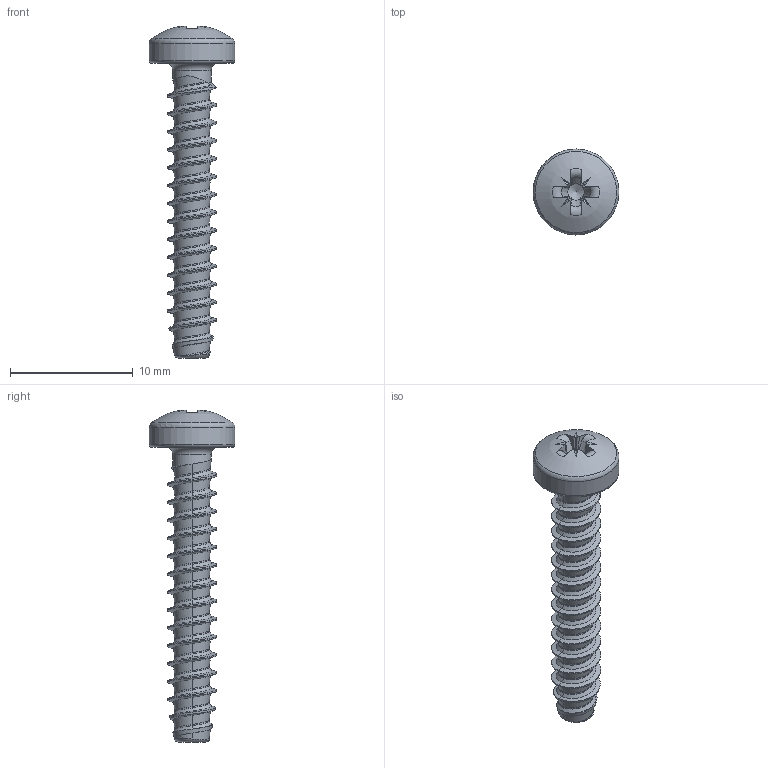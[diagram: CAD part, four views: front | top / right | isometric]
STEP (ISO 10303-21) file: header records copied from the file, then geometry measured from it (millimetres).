
FILE_DESCRIPTION(/* description */ (''),/* implementation_level */ '2;1');
FILE_NAME(/* name */ 'KN6032-STSplus-40x24-Z2.step',/* time_stamp */ '2017-10-10T15:59:09+02:00',/* author */ (''),/* organization */ (''),/* preprocessor_version */ 'ST-DEVELOPER v16',/* originating_system */ 'SIEMENS PLM Software NX 10.0',/* authorisation */ '');
FILE_SCHEMA (('AUTOMOTIVE_DESIGN { 1 0 10303 214 3 1 1 1 }'));
Length unit declared in the file: millimetre
Products named in the file (1): KN6032-STSplus-40x24-Z2
Bounding box: 7 x 7 x 27.03 mm (x, y, z)
Volume: 276.1 mm3; surface area: 473.7 mm2
Topology: 1 solids, 1 shells, 150 faces, 357 edges, 209 vertices
Faces by surface type: bspline 81, plane 42, cylinder 11, torus 8, cone 7, sphere 1
Full cylindrical faces by diameter (mm): 3.13 x1, 7 x1
Entity records: 8603 total; most frequent: CARTESIAN_POINT 5732, ORIENTED_EDGE 686, DIRECTION 387, EDGE_CURVE 343, VERTEX_POINT 204, EDGE_LOOP 158, B_SPLINE_CURVE_WITH_KNOTS 151, ADVANCED_FACE 150
